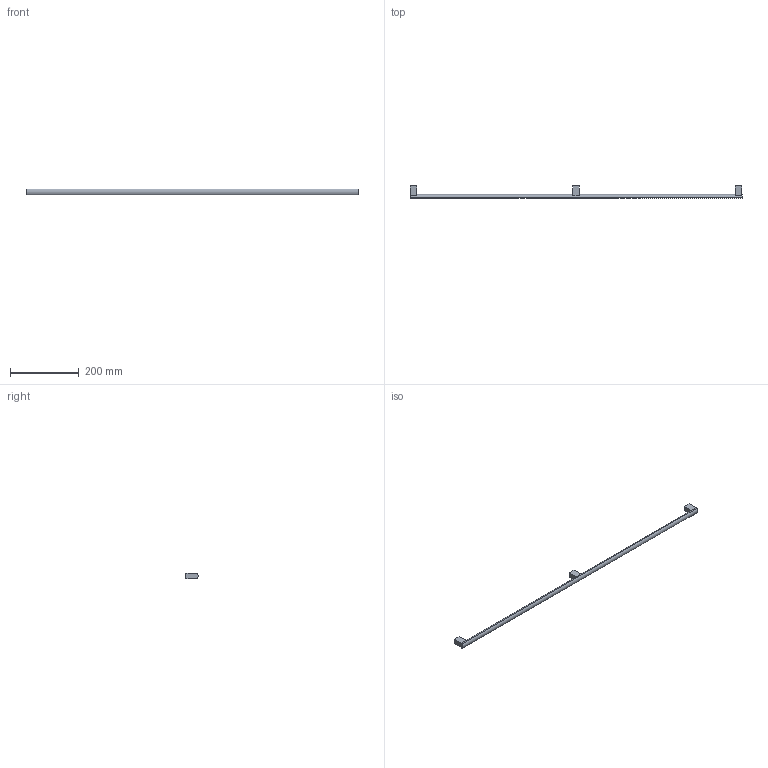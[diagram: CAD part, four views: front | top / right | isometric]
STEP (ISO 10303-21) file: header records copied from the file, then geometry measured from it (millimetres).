
FILE_DESCRIPTION( ( 'STEP AP214' ), '1' );
FILE_NAME( 'D:/Shahbaz D&D/Task/Check and correct handles with 3 drill sockets/Clivia/115216.stp', '2023-02-20T11:14:42', ( '' ), ( '' ), ' ', 'PARTsolutions', ' ' );
FILE_SCHEMA( ( 'AUTOMOTIVE_DESIGN { 1 0 10303 214 1 1 1 1 }' ) );
Length unit declared in the file: millimetre
Products named in the file (1): _115216
Bounding box: 967 x 35.96 x 16 mm (x, y, z)
Volume: 152451.5 mm3; surface area: 47573.3 mm2
Topology: 1 solids, 1 shells, 30 faces, 69 edges, 46 vertices
Faces by surface type: plane 25, cylinder 5
Full cylindrical faces by diameter (mm): 4 x3
Entity records: 1090 total; most frequent: DIRECTION 144, CARTESIAN_POINT 143, ORIENTED_EDGE 132, EDGE_CURVE 66, LINE 50, VECTOR 50, AXIS2_PLACEMENT_3D 47, VERTEX_POINT 46
